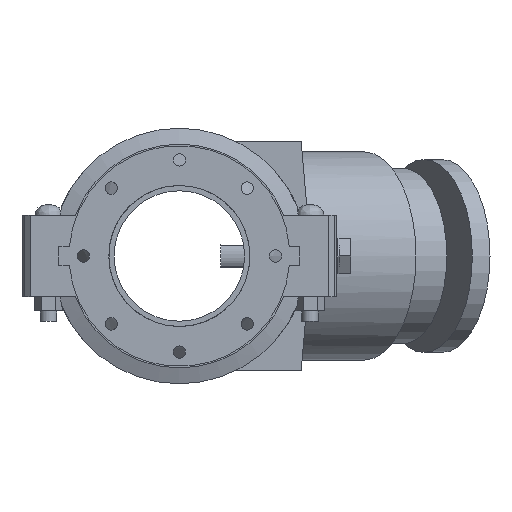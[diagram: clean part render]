
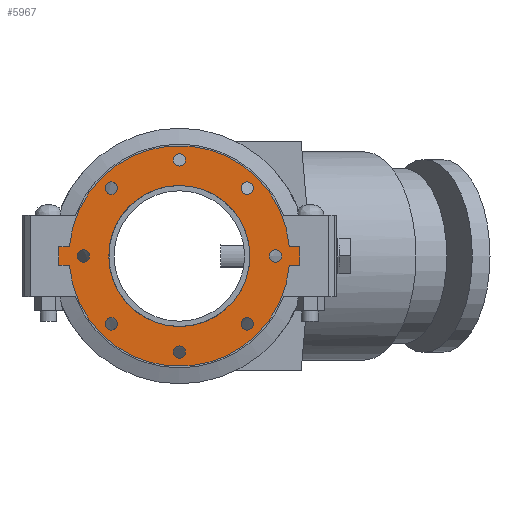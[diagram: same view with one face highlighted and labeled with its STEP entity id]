
A CAD part, front view. The second image highlights one B-rep face of the part: STEP entity #5967.
In plain terms, the highlighted planar face has unit normal (0, -1, 0) as drawn and (0, 0, 1) by its records, which use the part's own axes.
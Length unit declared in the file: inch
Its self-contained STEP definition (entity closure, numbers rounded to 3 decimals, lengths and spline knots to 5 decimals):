
#157=FACE_BOUND('',#792,.T.);
#158=FACE_BOUND('',#793,.T.);
#159=FACE_BOUND('',#794,.T.);
#160=FACE_BOUND('',#795,.T.);
#161=FACE_BOUND('',#796,.T.);
#162=FACE_BOUND('',#797,.T.);
#163=FACE_BOUND('',#798,.T.);
#164=FACE_BOUND('',#799,.T.);
#165=FACE_BOUND('',#800,.T.);
#238=PLANE('',#6533);
#450=FACE_OUTER_BOUND('',#791,.T.);
#791=EDGE_LOOP('',(#3911,#3912,#3913,#3914,#3915,#3916,#3917,#3918));
#792=EDGE_LOOP('',(#3919));
#793=EDGE_LOOP('',(#3920));
#794=EDGE_LOOP('',(#3921));
#795=EDGE_LOOP('',(#3922));
#796=EDGE_LOOP('',(#3923));
#797=EDGE_LOOP('',(#3924));
#798=EDGE_LOOP('',(#3925));
#799=EDGE_LOOP('',(#3926));
#800=EDGE_LOOP('',(#3927,#3928));
#1199=LINE('',#9166,#1639);
#1200=LINE('',#9169,#1640);
#1203=LINE('',#9174,#1643);
#1204=LINE('',#9177,#1644);
#1206=LINE('',#9180,#1646);
#1207=LINE('',#9182,#1647);
#1639=VECTOR('',#7302,0.3937);
#1640=VECTOR('',#7305,0.3937);
#1643=VECTOR('',#7310,0.3937);
#1644=VECTOR('',#7313,0.3937);
#1646=VECTOR('',#7317,0.3937);
#1647=VECTOR('',#7320,0.3937);
#2059=CIRCLE('',#6492,0.375);
#2061=CIRCLE('',#6495,0.375);
#2063=CIRCLE('',#6498,0.375);
#2065=CIRCLE('',#6501,0.375);
#2067=CIRCLE('',#6504,0.375);
#2069=CIRCLE('',#6507,0.375);
#2071=CIRCLE('',#6510,0.375);
#2073=CIRCLE('',#6513,0.375);
#2079=CIRCLE('',#6521,6.75);
#2080=CIRCLE('',#6523,4.3125);
#2081=CIRCLE('',#6524,4.3125);
#2082=CIRCLE('',#6526,6.75);
#2408=VERTEX_POINT('',#9077);
#2410=VERTEX_POINT('',#9083);
#2412=VERTEX_POINT('',#9089);
#2414=VERTEX_POINT('',#9095);
#2416=VERTEX_POINT('',#9101);
#2418=VERTEX_POINT('',#9107);
#2420=VERTEX_POINT('',#9113);
#2422=VERTEX_POINT('',#9119);
#2434=VERTEX_POINT('',#9146);
#2435=VERTEX_POINT('',#9148);
#2436=VERTEX_POINT('',#9152);
#2437=VERTEX_POINT('',#9154);
#2438=VERTEX_POINT('',#9158);
#2439=VERTEX_POINT('',#9160);
#2440=VERTEX_POINT('',#9164);
#2441=VERTEX_POINT('',#9168);
#2442=VERTEX_POINT('',#9172);
#2443=VERTEX_POINT('',#9176);
#2985=EDGE_CURVE('',#2408,#2408,#2059,.T.);
#2988=EDGE_CURVE('',#2410,#2410,#2061,.T.);
#2991=EDGE_CURVE('',#2412,#2412,#2063,.T.);
#2994=EDGE_CURVE('',#2414,#2414,#2065,.T.);
#2997=EDGE_CURVE('',#2416,#2416,#2067,.T.);
#3000=EDGE_CURVE('',#2418,#2418,#2069,.T.);
#3003=EDGE_CURVE('',#2420,#2420,#2071,.T.);
#3006=EDGE_CURVE('',#2422,#2422,#2073,.T.);
#3021=EDGE_CURVE('',#2434,#2435,#2079,.T.);
#3023=EDGE_CURVE('',#2437,#2436,#2080,.T.);
#3024=EDGE_CURVE('',#2436,#2437,#2081,.T.);
#3026=EDGE_CURVE('',#2439,#2438,#2082,.T.);
#3029=EDGE_CURVE('',#2435,#2440,#1199,.T.);
#3030=EDGE_CURVE('',#2441,#2439,#1200,.T.);
#3033=EDGE_CURVE('',#2438,#2442,#1203,.T.);
#3034=EDGE_CURVE('',#2443,#2434,#1204,.T.);
#3036=EDGE_CURVE('',#2442,#2443,#1206,.T.);
#3037=EDGE_CURVE('',#2440,#2441,#1207,.T.);
#3911=ORIENTED_EDGE('',*,*,#3033,.T.);
#3912=ORIENTED_EDGE('',*,*,#3036,.T.);
#3913=ORIENTED_EDGE('',*,*,#3034,.T.);
#3914=ORIENTED_EDGE('',*,*,#3021,.T.);
#3915=ORIENTED_EDGE('',*,*,#3029,.T.);
#3916=ORIENTED_EDGE('',*,*,#3037,.T.);
#3917=ORIENTED_EDGE('',*,*,#3030,.T.);
#3918=ORIENTED_EDGE('',*,*,#3026,.T.);
#3919=ORIENTED_EDGE('',*,*,#2985,.T.);
#3920=ORIENTED_EDGE('',*,*,#2988,.T.);
#3921=ORIENTED_EDGE('',*,*,#2991,.T.);
#3922=ORIENTED_EDGE('',*,*,#2994,.T.);
#3923=ORIENTED_EDGE('',*,*,#2997,.T.);
#3924=ORIENTED_EDGE('',*,*,#3000,.T.);
#3925=ORIENTED_EDGE('',*,*,#3003,.T.);
#3926=ORIENTED_EDGE('',*,*,#3006,.T.);
#3927=ORIENTED_EDGE('',*,*,#3023,.T.);
#3928=ORIENTED_EDGE('',*,*,#3024,.T.);
#5967=ADVANCED_FACE('',(#450,#157,#158,#159,#160,#161,#162,#163,#164,#165),
#238,.T.);
#6492=AXIS2_PLACEMENT_3D('',#9078,#7210,#7211);
#6495=AXIS2_PLACEMENT_3D('',#9084,#7217,#7218);
#6498=AXIS2_PLACEMENT_3D('',#9090,#7224,#7225);
#6501=AXIS2_PLACEMENT_3D('',#9096,#7231,#7232);
#6504=AXIS2_PLACEMENT_3D('',#9102,#7238,#7239);
#6507=AXIS2_PLACEMENT_3D('',#9108,#7245,#7246);
#6510=AXIS2_PLACEMENT_3D('',#9114,#7252,#7253);
#6513=AXIS2_PLACEMENT_3D('',#9120,#7259,#7260);
#6521=AXIS2_PLACEMENT_3D('',#9150,#7284,#7285);
#6523=AXIS2_PLACEMENT_3D('',#9155,#7289,#7290);
#6524=AXIS2_PLACEMENT_3D('',#9156,#7291,#7292);
#6526=AXIS2_PLACEMENT_3D('',#9161,#7296,#7297);
#6533=AXIS2_PLACEMENT_3D('',#9183,#7321,#7322);
#7210=DIRECTION('center_axis',(0.,0.,-1.));
#7211=DIRECTION('ref_axis',(-0.707,0.707,0.));
#7217=DIRECTION('center_axis',(0.,0.,-1.));
#7218=DIRECTION('ref_axis',(0.,1.,0.));
#7224=DIRECTION('center_axis',(0.,0.,-1.));
#7225=DIRECTION('ref_axis',(0.707,0.707,0.));
#7231=DIRECTION('center_axis',(0.,0.,-1.));
#7232=DIRECTION('ref_axis',(1.,0.,0.));
#7238=DIRECTION('center_axis',(0.,0.,-1.));
#7239=DIRECTION('ref_axis',(0.707,-0.707,0.));
#7245=DIRECTION('center_axis',(0.,0.,-1.));
#7246=DIRECTION('ref_axis',(0.,-1.,0.));
#7252=DIRECTION('center_axis',(0.,0.,-1.));
#7253=DIRECTION('ref_axis',(-0.707,-0.707,0.));
#7259=DIRECTION('center_axis',(0.,0.,-1.));
#7260=DIRECTION('ref_axis',(-1.,0.,0.));
#7284=DIRECTION('center_axis',(0.,0.,1.));
#7285=DIRECTION('ref_axis',(-1.,0.,0.));
#7289=DIRECTION('center_axis',(0.,0.,-1.));
#7290=DIRECTION('ref_axis',(-1.,0.,0.));
#7291=DIRECTION('center_axis',(0.,0.,-1.));
#7292=DIRECTION('ref_axis',(-1.,0.,0.));
#7296=DIRECTION('center_axis',(0.,0.,1.));
#7297=DIRECTION('ref_axis',(-1.,0.,0.));
#7302=DIRECTION('',(0.,1.,0.));
#7305=DIRECTION('',(0.,-1.,0.));
#7310=DIRECTION('',(0.,-1.,0.));
#7313=DIRECTION('',(0.,1.,0.));
#7317=DIRECTION('',(1.,0.,0.));
#7320=DIRECTION('',(-1.,0.,0.));
#7321=DIRECTION('center_axis',(0.,0.,1.));
#7322=DIRECTION('ref_axis',(1.,0.,0.));
#9077=CARTESIAN_POINT('',(-3.88909,3.88909,0.565));
#9078=CARTESIAN_POINT('Origin',(-4.15425,4.15425,0.565));
#9083=CARTESIAN_POINT('',(0.,5.5,0.565));
#9084=CARTESIAN_POINT('Origin',(0.,5.875,0.565));
#9089=CARTESIAN_POINT('',(3.88909,3.88909,0.565));
#9090=CARTESIAN_POINT('Origin',(4.15425,4.15425,0.565));
#9095=CARTESIAN_POINT('',(5.5,0.,0.565));
#9096=CARTESIAN_POINT('Origin',(5.875,0.,0.565));
#9101=CARTESIAN_POINT('',(3.88909,-3.88909,0.565));
#9102=CARTESIAN_POINT('Origin',(4.15425,-4.15425,0.565));
#9107=CARTESIAN_POINT('',(0.,-5.5,0.565));
#9108=CARTESIAN_POINT('Origin',(0.,-5.875,0.565));
#9113=CARTESIAN_POINT('',(-3.88909,-3.88909,0.565));
#9114=CARTESIAN_POINT('Origin',(-4.15425,-4.15425,0.565));
#9119=CARTESIAN_POINT('',(-5.5,0.,0.565));
#9120=CARTESIAN_POINT('Origin',(-5.875,0.,0.565));
#9146=CARTESIAN_POINT('',(0.565,-6.72631,0.565));
#9148=CARTESIAN_POINT('',(0.565,6.72631,0.565));
#9150=CARTESIAN_POINT('Origin',(0.,0.,0.565));
#9152=CARTESIAN_POINT('',(4.3125,0.,0.565));
#9154=CARTESIAN_POINT('',(0.565,4.27533,0.565));
#9155=CARTESIAN_POINT('Origin',(0.,0.,0.565));
#9156=CARTESIAN_POINT('Origin',(0.,0.,0.565));
#9158=CARTESIAN_POINT('',(-0.565,-6.72631,0.565));
#9160=CARTESIAN_POINT('',(-0.565,6.72631,0.565));
#9161=CARTESIAN_POINT('Origin',(0.,0.,0.565));
#9164=CARTESIAN_POINT('',(0.565,7.375,0.565));
#9166=CARTESIAN_POINT('',(0.565,7.375,0.565));
#9168=CARTESIAN_POINT('',(-0.565,7.375,0.565));
#9169=CARTESIAN_POINT('',(-0.565,-7.375,0.565));
#9172=CARTESIAN_POINT('',(-0.565,-7.375,0.565));
#9174=CARTESIAN_POINT('',(-0.565,-7.375,0.565));
#9176=CARTESIAN_POINT('',(0.565,-7.375,0.565));
#9177=CARTESIAN_POINT('',(0.565,7.375,0.565));
#9180=CARTESIAN_POINT('',(0.565,-7.375,0.565));
#9182=CARTESIAN_POINT('',(-0.565,7.375,0.565));
#9183=CARTESIAN_POINT('Origin',(0.,0.,0.565));
